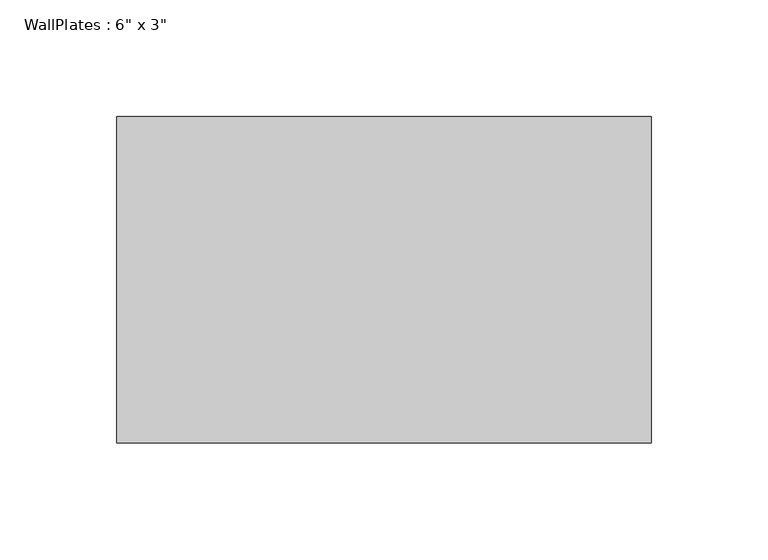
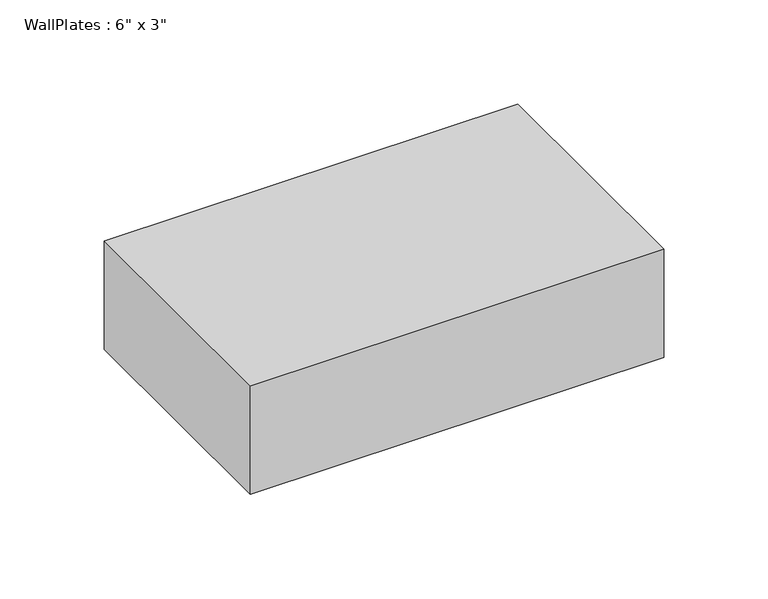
"""IFC4 building model written with IfcOpenShell, lengths in millimetres: beam geometry."""

from ifc_helpers import new_model, si_unit, frame, origin, place, context, project, spatial, polyline, outline, extrude, source, transform, mapped, element, save


def beam_1e26743b(model_context):
    return source(origin(), model_context, "Body", "SweptSolid", [
        extrude(outline(polyline([(-114.3, -69.85), (-114.3, 69.85), (114.3, 69.85), (114.3, -69.85), (-114.3, -69.85)])), frame((0.0, 0.0, -31.75), z_axis=(0.0, 0.0, 1.0), x_axis=(1.0, 0.0, 0.0)), (0.0, 0.0, 1.0), 63.5),
    ])


if __name__ == "__main__":
    model = new_model("IFC4")
    model_context = context("Model", 3, world=origin())
    ifc_project = project(units=[si_unit("LENGTHUNIT", "METRE", prefix="MILLI")], contexts=[model_context])
    site = spatial("IfcSite", under=ifc_project)
    building = spatial("IfcBuilding", under=site)
    placement = place(None, origin())
    beam_shape = beam_1e26743b(model_context)
    element("IfcBeam", 1, ObjectType="WallPlates : 6\" x 3\"", at=placement, inside=building, context=model_context, shape_type="MappedRepresentation", body=[
        mapped(beam_shape, transform((0.0, 0.0, 0.0), x_axis=(1.0, 0.0, 0.0), y_axis=(0.0, 1.0, 0.0), z_axis=(0.0, 0.0, 1.0))),
    ])
    save(model, "model.ifc")
